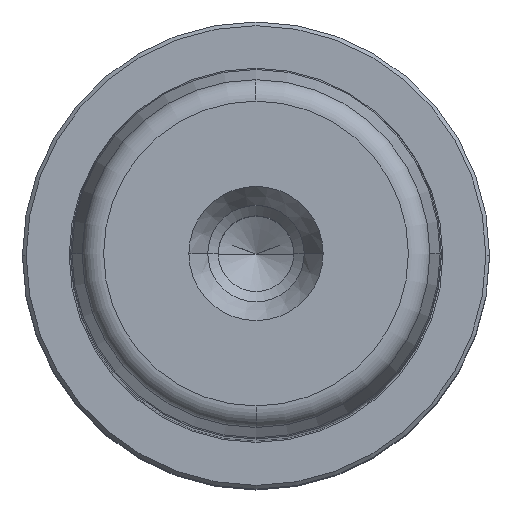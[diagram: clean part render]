
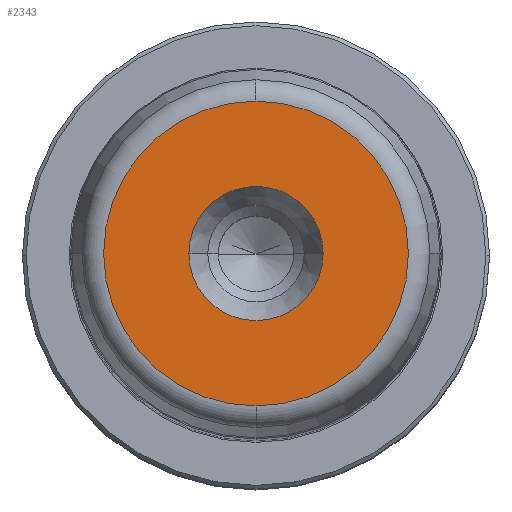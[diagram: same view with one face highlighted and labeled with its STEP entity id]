
A CAD part, top view. The second image highlights one B-rep face of the part: STEP entity #2343.
In plain terms, the highlighted planar face has unit normal (0, 0, 1).
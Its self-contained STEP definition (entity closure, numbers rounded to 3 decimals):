
#431=CARTESIAN_POINT('',(9.05,0.,160.0));
#432=VERTEX_POINT('',#431);
#439=CARTESIAN_POINT('',(-9.05,0.,160.0));
#440=VERTEX_POINT('',#439);
#441=CARTESIAN_POINT('',(0.0,0.,160.0));
#442=DIRECTION('',(0.0,0.0,1.0));
#443=DIRECTION('',(1.0,0.0,0.0));
#444=AXIS2_PLACEMENT_3D('',#441,#442,#443);
#445=CIRCLE('',#444,9.05);
#446=EDGE_CURVE('',#432,#440,#445,.T.);
#463=CARTESIAN_POINT('',(0.0,-20.554,160.0));
#464=VERTEX_POINT('',#463);
#474=CARTESIAN_POINT('',(0.,20.554,160.0));
#475=VERTEX_POINT('',#474);
#476=CARTESIAN_POINT('',(0.0,0.,160.0));
#477=DIRECTION('',(0.0,0.0,1.0));
#478=DIRECTION('',(1.0,0.0,0.0));
#479=AXIS2_PLACEMENT_3D('',#476,#477,#478);
#480=CIRCLE('',#479,20.554);
#481=EDGE_CURVE('',#475,#464,#480,.T.);
#2304=CARTESIAN_POINT('',(20.554,0.,160.0));
#2305=VERTEX_POINT('',#2304);
#2306=CARTESIAN_POINT('',(0.0,0.,160.0));
#2307=DIRECTION('',(0.0,0.0,1.0));
#2308=DIRECTION('',(1.0,0.0,0.0));
#2309=AXIS2_PLACEMENT_3D('',#2306,#2307,#2308);
#2310=CIRCLE('',#2309,20.554);
#2311=EDGE_CURVE('',#2305,#475,#2310,.T.);
#2313=CARTESIAN_POINT('',(0.0,0.,160.0));
#2314=DIRECTION('',(0.0,0.0,1.0));
#2315=DIRECTION('',(1.0,0.0,0.0));
#2316=AXIS2_PLACEMENT_3D('',#2313,#2314,#2315);
#2317=CIRCLE('',#2316,20.554);
#2318=EDGE_CURVE('',#464,#2305,#2317,.T.);
#2323=CARTESIAN_POINT('',(14.802,0.,160.0));
#2324=DIRECTION('',(0.0,0.0,1.0));
#2325=DIRECTION('',(0.0,-1.0,0.0));
#2326=AXIS2_PLACEMENT_3D('',#2323,#2324,#2325);
#2327=PLANE('',#2326);
#2328=ORIENTED_EDGE('',*,*,#2311,.T.);
#2329=ORIENTED_EDGE('',*,*,#481,.T.);
#2330=ORIENTED_EDGE('',*,*,#2318,.T.);
#2331=EDGE_LOOP('',(#2328,#2329,#2330));
#2332=FACE_OUTER_BOUND('',#2331,.T.);
#2333=ORIENTED_EDGE('',*,*,#446,.F.);
#2334=CARTESIAN_POINT('',(0.0,0.,160.0));
#2335=DIRECTION('',(0.0,0.0,1.0));
#2336=DIRECTION('',(1.0,0.0,0.0));
#2337=AXIS2_PLACEMENT_3D('',#2334,#2335,#2336);
#2338=CIRCLE('',#2337,9.05);
#2339=EDGE_CURVE('',#440,#432,#2338,.T.);
#2340=ORIENTED_EDGE('',*,*,#2339,.F.);
#2341=EDGE_LOOP('',(#2333,#2340));
#2342=FACE_BOUND('',#2341,.T.);
#2343=ADVANCED_FACE('',(#2332,#2342),#2327,.T.);
